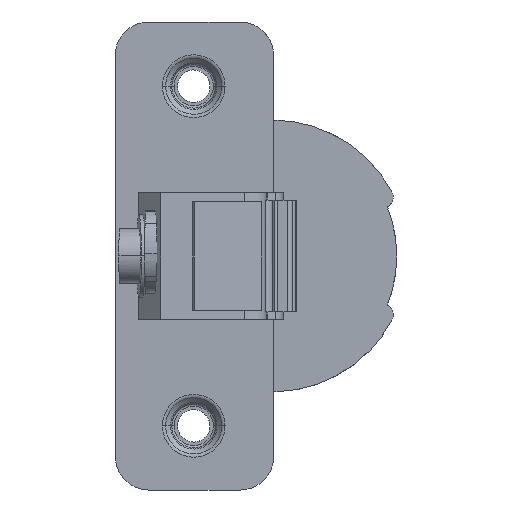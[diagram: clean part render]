
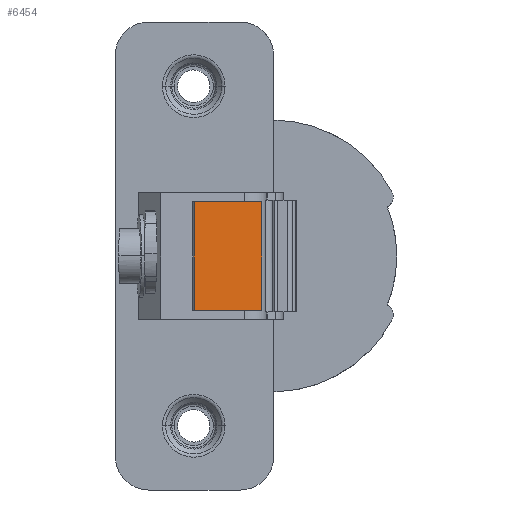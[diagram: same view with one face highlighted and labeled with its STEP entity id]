
A CAD part, left-side view. The second image highlights one B-rep face of the part: STEP entity #6454.
In plain terms, the highlighted planar face has unit normal (-0.994, -0.112, 0).
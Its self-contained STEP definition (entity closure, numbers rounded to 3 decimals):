
#281 = ORIENTED_EDGE ( 'NONE', *, *, #2375, .F. ) ;
#373 = B_SPLINE_CURVE_WITH_KNOTS ( 'NONE', 3,
 ( #5394, #2317, #5532, #2484 ),
 .UNSPECIFIED., .F., .F.,
 ( 4, 4 ),
 ( 0., 1. ),
 .UNSPECIFIED. ) ;
#427 = VERTEX_POINT ( 'NONE', #1182 ) ;
#697 = ORIENTED_EDGE ( 'NONE', *, *, #2994, .F. ) ;
#763 = CARTESIAN_POINT ( 'NONE',  ( -32.751, 14.752, -7.2 ) ) ;
#775 = VERTEX_POINT ( 'NONE', #1753 ) ;
#844 = EDGE_LOOP ( 'NONE', ( #281, #697, #5399, #5946 ) ) ;
#1182 = CARTESIAN_POINT ( 'NONE',  ( -31.749, 5.845, -7.2 ) ) ;
#1276 = CARTESIAN_POINT ( 'NONE',  ( -32.751, 14.752, -7.2 ) ) ;
#1334 = CARTESIAN_POINT ( 'NONE',  ( -32.751, 14.752, -16.946 ) ) ;
#1374 = CARTESIAN_POINT ( 'NONE',  ( -31.749, 5.845, -7.2 ) ) ;
#1393 = CARTESIAN_POINT ( 'NONE',  ( -32.751, 14.752, -2.4 ) ) ;
#1751 = FACE_OUTER_BOUND ( 'NONE', #844, .T. ) ;
#1753 = CARTESIAN_POINT ( 'NONE',  ( -31.749, 5.845, 7.2 ) ) ;
#1827 = DIRECTION ( 'NONE',  ( -0.112, 0.994, 0. ) ) ;
#1851 = CARTESIAN_POINT ( 'NONE',  ( -31.749, 5.845, 7.2 ) ) ;
#1891 = CARTESIAN_POINT ( 'NONE',  ( -32.751, 14.752, 7.2 ) ) ;
#2209 = B_SPLINE_CURVE_WITH_KNOTS ( 'NONE', 3,
 ( #1851, #2879, #4417, #1374 ),
 .UNSPECIFIED., .F., .F.,
 ( 4, 4 ),
 ( 0., 1. ),
 .UNSPECIFIED. ) ;
#2258 = CARTESIAN_POINT ( 'NONE',  ( -32.751, 14.752, 7.2 ) ) ;
#2308 = VERTEX_POINT ( 'NONE', #763 ) ;
#2317 = CARTESIAN_POINT ( 'NONE',  ( -32.417, 11.783, 7.2 ) ) ;
#2375 = EDGE_CURVE ( 'NONE', #3865, #775, #373, .T. ) ;
#2484 = CARTESIAN_POINT ( 'NONE',  ( -31.749, 5.845, 7.2 ) ) ;
#2812 = CARTESIAN_POINT ( 'NONE',  ( -31.749, 5.845, -7.2 ) ) ;
#2879 = CARTESIAN_POINT ( 'NONE',  ( -31.749, 5.845, 2.4 ) ) ;
#2994 = EDGE_CURVE ( 'NONE', #2308, #3865, #3813, .T. ) ;
#3813 = B_SPLINE_CURVE_WITH_KNOTS ( 'NONE', 3,
 ( #4419, #1393, #4966, #1891 ),
 .UNSPECIFIED., .F., .F.,
 ( 4, 4 ),
 ( 0., 1. ),
 .UNSPECIFIED. ) ;
#3865 = VERTEX_POINT ( 'NONE', #2258 ) ;
#3930 = EDGE_CURVE ( 'NONE', #2308, #427, #4513, .T. ) ;
#4002 = AXIS2_PLACEMENT_3D ( 'NONE', #1334, #4897, #1827 ) ;
#4330 = CARTESIAN_POINT ( 'NONE',  ( -32.417, 11.783, -7.2 ) ) ;
#4379 = PLANE ( 'NONE',  #4002 ) ;
#4417 = CARTESIAN_POINT ( 'NONE',  ( -31.749, 5.845, -2.4 ) ) ;
#4419 = CARTESIAN_POINT ( 'NONE',  ( -32.751, 14.752, -7.2 ) ) ;
#4513 = B_SPLINE_CURVE_WITH_KNOTS ( 'NONE', 3,
 ( #1276, #4330, #5860, #2812 ),
 .UNSPECIFIED., .F., .F.,
 ( 4, 4 ),
 ( 0., 1. ),
 .UNSPECIFIED. ) ;
#4897 = DIRECTION ( 'NONE',  ( -0.994, -0.112, 0. ) ) ;
#4966 = CARTESIAN_POINT ( 'NONE',  ( -32.751, 14.752, 2.4 ) ) ;
#5394 = CARTESIAN_POINT ( 'NONE',  ( -32.751, 14.752, 7.2 ) ) ;
#5399 = ORIENTED_EDGE ( 'NONE', *, *, #3930, .T. ) ;
#5532 = CARTESIAN_POINT ( 'NONE',  ( -32.083, 8.814, 7.2 ) ) ;
#5750 = EDGE_CURVE ( 'NONE', #775, #427, #2209, .T. ) ;
#5860 = CARTESIAN_POINT ( 'NONE',  ( -32.083, 8.814, -7.2 ) ) ;
#5946 = ORIENTED_EDGE ( 'NONE', *, *, #5750, .F. ) ;
#6454 = ADVANCED_FACE ( 'NONE', ( #1751 ), #4379, .T. ) ;
